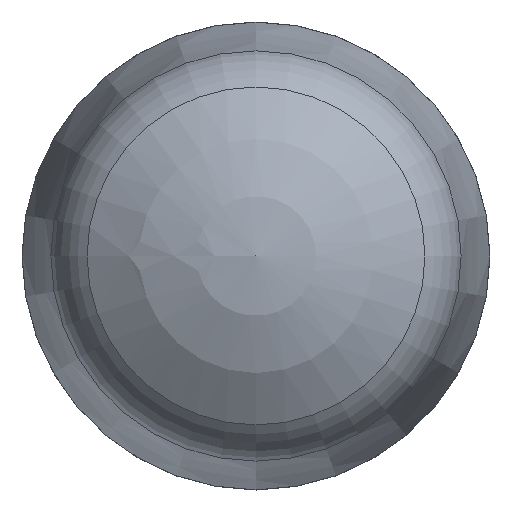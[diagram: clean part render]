
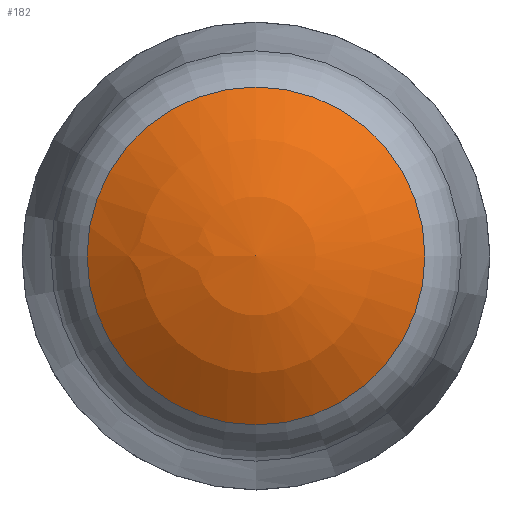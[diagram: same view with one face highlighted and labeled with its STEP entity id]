
A CAD part, front view. The second image highlights one B-rep face of the part: STEP entity #182.
In plain terms, the highlighted spherical face has radius 15 mm.
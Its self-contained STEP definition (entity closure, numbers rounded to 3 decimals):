
#182 = ADVANCED_FACE( '', ( #217, #218 ), #219, .T. );
#217 = FACE_BOUND( '', #293, .T. );
#218 = FACE_OUTER_BOUND( '', #294, .T. );
#219 = SPHERICAL_SURFACE( '', #295, 15. );
#293 = VERTEX_LOOP( '', #370 );
#294 = EDGE_LOOP( '', ( #371 ) );
#295 = AXIS2_PLACEMENT_3D( '', #372, #373, #374 );
#370 = VERTEX_POINT( '', #568 );
#371 = ORIENTED_EDGE( '', *, *, #567, .T. );
#372 = CARTESIAN_POINT( '', ( 0., 15., 0. ) );
#373 = DIRECTION( '', ( 0., -1., 0. ) );
#374 = DIRECTION( '', ( -1., 0., 0. ) );
#567 = EDGE_CURVE( '', #623, #623, #624, .T. );
#568 = CARTESIAN_POINT( '', ( 0., 0., 0. ) );
#623 = VERTEX_POINT( '', #711 );
#624 = CIRCLE( '', #712, 8.954 );
#711 = CARTESIAN_POINT( '', ( 0., 2.966, -8.954 ) );
#712 = AXIS2_PLACEMENT_3D( '', #942, #943, #944 );
#942 = CARTESIAN_POINT( '', ( 0., 2.966, 0. ) );
#943 = DIRECTION( '', ( 0., -1., 0. ) );
#944 = DIRECTION( '', ( 0., 0., -1. ) );
